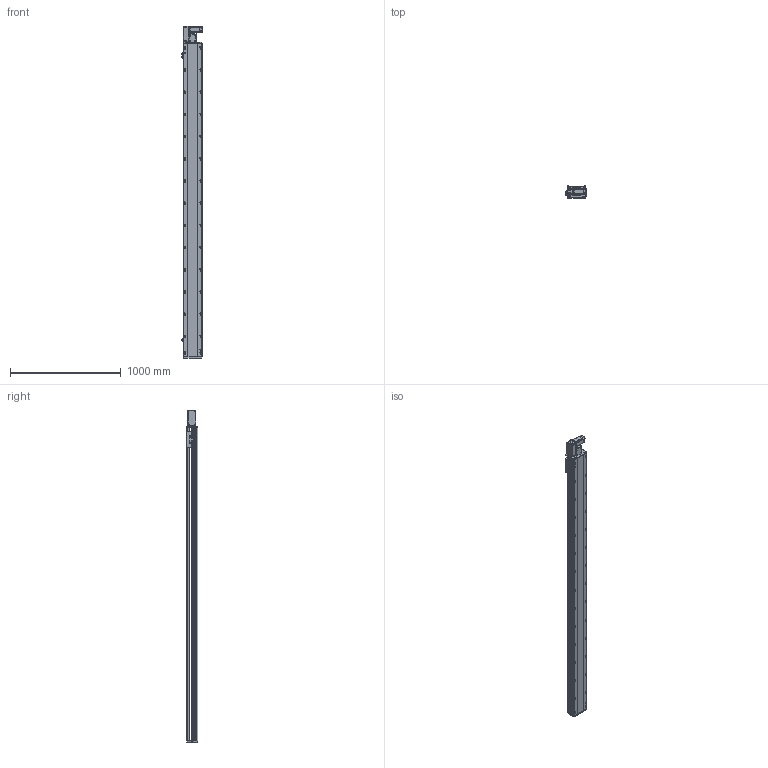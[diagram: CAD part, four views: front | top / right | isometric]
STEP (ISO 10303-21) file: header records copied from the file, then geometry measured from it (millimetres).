
FILE_DESCRIPTION (( 'STEP AP214' ), '1' );
FILE_NAME ('RTB17S-XX-2550-L-M40-C4.STEP', '2025-12-11T05:56:35', ( '' ), ( '' ), 'SwSTEP 2.0', 'SolidWorks 2018', '' );
FILE_SCHEMA (( 'AUTOMOTIVE_DESIGN' ));
Length unit declared in the file: millimetre
Products named in the file (14): RTB17S-L-007上盖^RTB17S-XX-XX-L-M40-C4（方程式）; RTH13-BL-012感应片外置^RTB17S-XX-XX-L-M40-C4（方程式）; OMRON EE-SX672 传感器^RTB17S-XX-XX-L-M40-C4（方程式）; RMP17S-L-014-T20--皮带座^RTB17S-L-皮带座装配-400W_RTB17S-XX-XX-L-M40-C4（方程式）; RTB17S-L-004丝杆螺母连接座^RTB17S-XX-XX-L-M40-C4（方程式）; RTB17-R-011底座^RTB17S-XX-XX-L-M40-C4（方程式）; RTB14-L-008-M20--电机板^RTB17S-L-皮带座装配-400W_RTB17S-XX-XX-L-M40-C4（方程式）; RTB14-L-018P^RTB17S-L-皮带座装配-400W_RTB17S-XX-XX-L-M40-C4（方程式）; RTB17S-L-001侧面板^RTB17S-XX-XX-L-M40-C4（方程式）; RTB17S-L-皮带座装配-400W^RTB17S-XX-XX-L-M40-C4（方程式）; RTB14-L-005P--轴承塑胶压盖^RTB17S-L-皮带座装配-400W_RTB17S-XX-XX-L-M40-C4（方程式）; RTB17S-XX-2550-L-M40-C4; 400W伺服电机^RTB17S-XX-XX-L-M40-C4（方程式）; RTB14-L-017P^RTB17S-L-皮带座装配-400W_RTB17S-XX-XX-L-M40-C4（方程式）
Assembly tree (16 placements, depth 3):
  RTB17S-XX-2550-L-M40-C4
    RTB17-R-011底座^RTB17S-XX-XX-L-M40-C4（方程式）
    RTB17S-L-007上盖^RTB17S-XX-XX-L-M40-C4（方程式）
    OMRON EE-SX672 传感器^RTB17S-XX-XX-L-M40-C4（方程式）  x3
    RTB17S-L-001侧面板^RTB17S-XX-XX-L-M40-C4（方程式）
    400W伺服电机^RTB17S-XX-XX-L-M40-C4（方程式）
    RTB17S-L-004丝杆螺母连接座^RTB17S-XX-XX-L-M40-C4（方程式）
    RTH13-BL-012感应片外置^RTB17S-XX-XX-L-M40-C4（方程式）
    RTB17S-L-皮带座装配-400W^RTB17S-XX-XX-L-M40-C4（方程式）
      RMP17S-L-014-T20--皮带座^RTB17S-L-皮带座装配-400W_RTB17S-XX-XX-L-M40-C4（方程式）
      RTB14-L-005P--轴承塑胶压盖^RTB17S-L-皮带座装配-400W_RTB17S-XX-XX-L-M40-C4（方程式）
      RTB14-L-008-M20--电机板^RTB17S-L-皮带座装配-400W_RTB17S-XX-XX-L-M40-C4（方程式）
      RTB14-L-017P^RTB17S-L-皮带座装配-400W_RTB17S-XX-XX-L-M40-C4（方程式）  x2
      RTB14-L-018P^RTB17S-L-皮带座装配-400W_RTB17S-XX-XX-L-M40-C4（方程式）
Bounding box: 186 x 108 x 2991 mm (x, y, z)
Volume: 25014468 mm3; surface area: 2876466.5 mm2
Topology: 15 solids, 15 shells, 2333 faces, 6519 edges, 4257 vertices
Faces by surface type: plane 1084, cylinder 801, bspline 301, cone 139, torus 8
Entity records: 68777 total; most frequent: CARTESIAN_POINT 19524, ORIENTED_EDGE 9882, DIRECTION 9116, EDGE_CURVE 4941, VERTEX_POINT 3245, AXIS2_PLACEMENT_3D 3175, LINE 2766, VECTOR 2766
